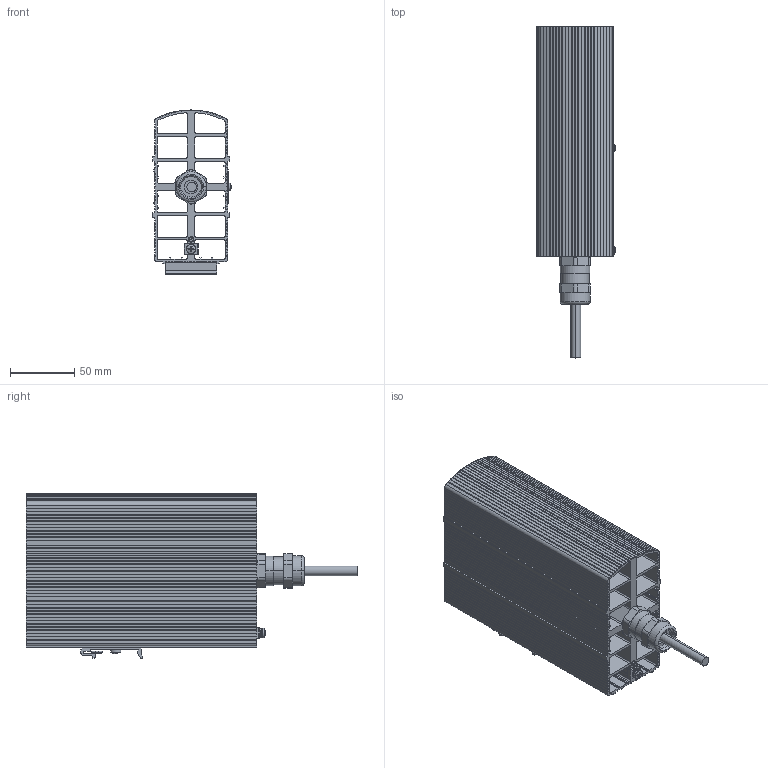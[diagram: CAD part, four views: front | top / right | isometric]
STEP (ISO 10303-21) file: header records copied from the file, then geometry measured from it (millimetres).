
FILE_DESCRIPTION (( 'STEP AP214' ), '1' );
FILE_NAME ('02051.x-0x_Ex-Heizgeraet.STEP', '2017-08-09T11:13:36', ( '' ), ( '' ), 'SwSTEP 2.0', 'SolidWorks 2017', '' );
FILE_SCHEMA (( 'AUTOMOTIVE_DESIGN' ));
Length unit declared in the file: millimetre
Products named in the file (1): 02051.x-0x_Ex-Heizgeraet
Bounding box: 61.42 x 259 x 128 mm (x, y, z)
Surface area: 261452.6 mm2 (no closed solid volume)
Topology: 0 solids, 15 shells, 772 faces, 2697 edges, 1831 vertices
Faces by surface type: plane 551, cylinder 154, cone 40, torus 18, sphere 8, bspline 1
Entity records: 37523 total; most frequent: CARTESIAN_POINT 5949, ORIENTED_EDGE 4733, DIRECTION 4579, EDGE_CURVE 2697, LINE 2115, VECTOR 2115, VERTEX_POINT 1831, AXIS2_PLACEMENT_3D 1232
